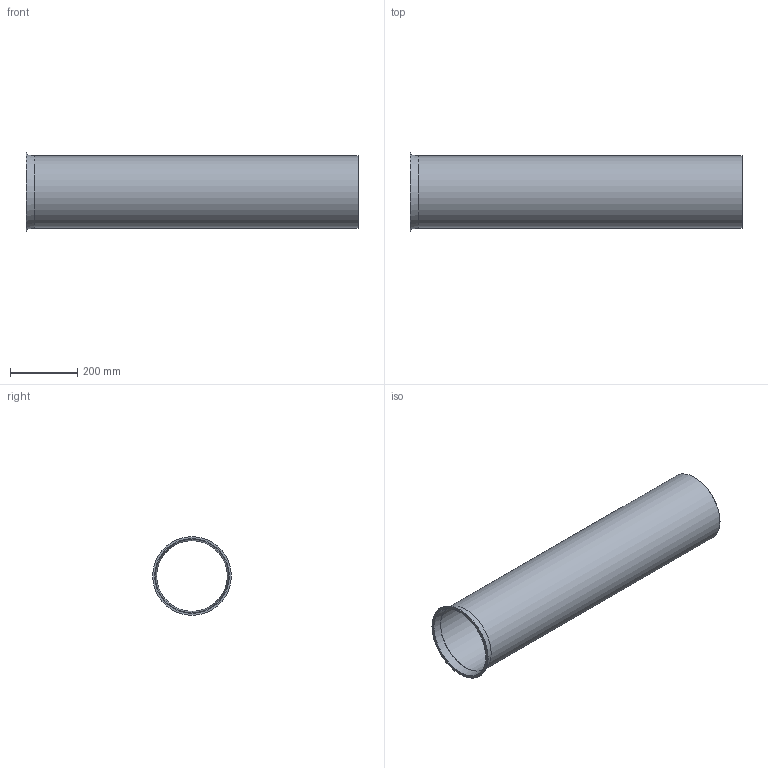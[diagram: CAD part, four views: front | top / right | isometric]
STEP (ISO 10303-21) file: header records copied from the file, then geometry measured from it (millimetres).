
FILE_DESCRIPTION((''),'2;1');
FILE_NAME('U:\Wolfgang\Marcel-3D\fertig\Kapitel 1\2211006.stp','2010-05-31T11:32:16',('TK2'),(''),'Autodesk Inventor 2010','Autodesk Inventor 2010','');
FILE_SCHEMA(('AUTOMOTIVE_DESIGN { 1 0 10303 214 1 1 1 1 }'));
Length unit declared in the file: millimetre
Products named in the file (1): 2211006
Bounding box: 991 x 235 x 235 mm (x, y, z)
Volume: 1335851.7 mm3; surface area: 1338655.7 mm2
Topology: 1 solids, 1 shells, 8 faces, 14 edges, 9 vertices
Faces by surface type: cylinder 3, plane 3, cone 2
Full cylindrical faces by diameter (mm): 211 x1, 215 x1, 235 x1
Entity records: 194 total; most frequent: DIRECTION 34, CARTESIAN_POINT 25, AXIS2_PLACEMENT_3D 17, ORIENTED_EDGE 16, EDGE_LOOP 16, VERTEX_POINT 8, CIRCLE 8, EDGE_CURVE 8
